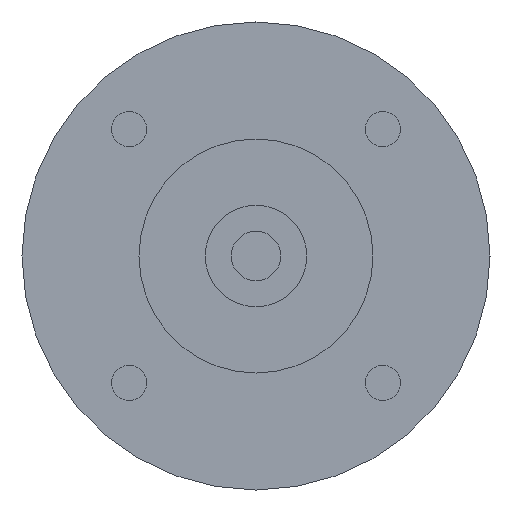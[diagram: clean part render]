
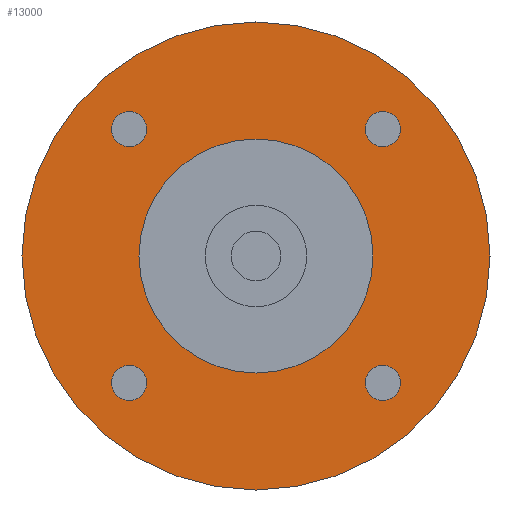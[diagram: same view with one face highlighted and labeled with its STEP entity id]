
A CAD part, left-side view. The second image highlights one B-rep face of the part: STEP entity #13000.
In plain terms, the highlighted planar face has unit normal (-1, 0, 0) as drawn and (0, 0, -1) by its records, which use the part's own axes.
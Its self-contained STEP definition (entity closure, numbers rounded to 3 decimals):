
#8700=CARTESIAN_POINT('',(-30.,0.,-35.));
#8710=VERTEX_POINT('',#8700);
#8910=CARTESIAN_POINT('',(30.,0.,-35.));
#8920=VERTEX_POINT('',#8910);
#8950=CARTESIAN_POINT('',(0.,0.,-35.
));
#8960=DIRECTION('',(0.,0.,1.));
#8970=DIRECTION('',(1.,0.,0.));
#8980=AXIS2_PLACEMENT_3D('',#8950,#8960,#8970);
#8990=CIRCLE('',#8980,30.);
#9000=CARTESIAN_POINT('',(0.,-30.,-35.));
#9010=VERTEX_POINT('',#9000);
#9020=EDGE_CURVE('',#9010,#8920,#8990,.T.);
#9040=EDGE_CURVE('',#8710,#9010,#8990,.T.);
#11970=CARTESIAN_POINT('',(-14.013,16.263,-35.));
#11980=VERTEX_POINT('',#11970);
#12010=CARTESIAN_POINT('',(-16.263,16.263,-35.));
#12020=DIRECTION('',(0.,0.,-1.));
#12030=DIRECTION('',(-1.,0.,0.));
#12040=AXIS2_PLACEMENT_3D('',#12010,#12020,#12030);
#12050=CIRCLE('',#12040,2.25);
#12060=CARTESIAN_POINT('',(-18.513,16.263,-35.));
#12070=VERTEX_POINT('',#12060);
#12080=EDGE_CURVE('',#12070,#11980,#12050,.T.);
#12200=CARTESIAN_POINT('',(0.,0.,
-35.));
#12210=DIRECTION('',(0.,0.,-1.));
#12220=DIRECTION('',(1.,0.,0.));
#12230=AXIS2_PLACEMENT_3D('',#12200,#12210,#12220);
#12240=PLANE('',#12230);
#12250=CARTESIAN_POINT('',(16.263,16.263,-35.));
#12260=DIRECTION('',(0.,0.,-1.));
#12270=DIRECTION('',(0.,1.,0.));
#12280=AXIS2_PLACEMENT_3D('',#12250,#12260,#12270);
#12290=CIRCLE('',#12280,2.25);
#12300=CARTESIAN_POINT('',(16.263,18.513,-35.));
#12310=VERTEX_POINT('',#12300);
#12320=CARTESIAN_POINT('',(16.263,14.013,-35.));
#12330=VERTEX_POINT('',#12320);
#12340=EDGE_CURVE('',#12310,#12330,#12290,.T.);
#12350=ORIENTED_EDGE('',*,*,#12340,.F.);
#12360=EDGE_CURVE('',#12330,#12310,#12290,.T.);
#12370=ORIENTED_EDGE('',*,*,#12360,.F.);
#12380=EDGE_LOOP('',(#12370,#12350));
#12390=FACE_BOUND('',#12380,.T.);
#12400=ORIENTED_EDGE('',*,*,#12080,.F.);
#12410=EDGE_CURVE('',#11980,#12070,#12050,.T.);
#12420=ORIENTED_EDGE('',*,*,#12410,.F.);
#12430=EDGE_LOOP('',(#12420,#12400));
#12440=FACE_BOUND('',#12430,.T.);
#12450=CARTESIAN_POINT('',(-16.263,-16.263,-35.));
#12460=DIRECTION('',(0.,0.,-1.));
#12470=DIRECTION('',(0.,-1.,0.));
#12480=AXIS2_PLACEMENT_3D('',#12450,#12460,#12470);
#12490=CIRCLE('',#12480,2.25);
#12500=CARTESIAN_POINT('',(-16.263,-18.513,-35.));
#12510=VERTEX_POINT('',#12500);
#12520=CARTESIAN_POINT('',(-16.263,-14.013,-35.));
#12530=VERTEX_POINT('',#12520);
#12540=EDGE_CURVE('',#12510,#12530,#12490,.T.);
#12550=ORIENTED_EDGE('',*,*,#12540,.F.);
#12560=EDGE_CURVE('',#12530,#12510,#12490,.T.);
#12570=ORIENTED_EDGE('',*,*,#12560,.F.);
#12580=EDGE_LOOP('',(#12570,#12550));
#12590=FACE_BOUND('',#12580,.T.);
#12600=CARTESIAN_POINT('',(0.,0.,
-35.));
#12610=DIRECTION('',(0.,0.,1.));
#12620=DIRECTION('',(0.,1.,0.));
#12630=AXIS2_PLACEMENT_3D('',#12600,#12610,#12620);
#12640=CIRCLE('',#12630,15.);
#12650=CARTESIAN_POINT('',(-15.,0.,-35.));
#12660=VERTEX_POINT('',#12650);
#12670=CARTESIAN_POINT('',(15.,0.,-35.));
#12680=VERTEX_POINT('',#12670);
#12690=EDGE_CURVE('',#12660,#12680,#12640,.T.);
#12700=ORIENTED_EDGE('',*,*,#12690,.T.);
#12710=CARTESIAN_POINT('',(0.,15.,-35.));
#12720=VERTEX_POINT('',#12710);
#12730=EDGE_CURVE('',#12720,#12660,#12640,.T.);
#12740=ORIENTED_EDGE('',*,*,#12730,.T.);
#12750=EDGE_CURVE('',#12680,#12720,#12640,.T.);
#12760=ORIENTED_EDGE('',*,*,#12750,.T.);
#12770=EDGE_LOOP('',(#12760,#12740,#12700));
#12780=FACE_BOUND('',#12770,.T.);
#12790=CARTESIAN_POINT('',(16.263,-16.263,-35.));
#12800=DIRECTION('',(0.,0.,-1.));
#12810=DIRECTION('',(1.,0.,0.));
#12820=AXIS2_PLACEMENT_3D('',#12790,#12800,#12810);
#12830=CIRCLE('',#12820,2.25);
#12840=CARTESIAN_POINT('',(18.513,-16.263,-35.));
#12850=VERTEX_POINT('',#12840);
#12860=CARTESIAN_POINT('',(14.013,-16.263,-35.));
#12870=VERTEX_POINT('',#12860);
#12880=EDGE_CURVE('',#12850,#12870,#12830,.T.);
#12890=ORIENTED_EDGE('',*,*,#12880,.F.);
#12900=EDGE_CURVE('',#12870,#12850,#12830,.T.);
#12910=ORIENTED_EDGE('',*,*,#12900,.F.);
#12920=EDGE_LOOP('',(#12910,#12890));
#12930=FACE_BOUND('',#12920,.T.);
#12940=ORIENTED_EDGE('',*,*,#9020,.F.);
#12950=EDGE_CURVE('',#8920,#8710,#8990,.T.);
#12960=ORIENTED_EDGE('',*,*,#12950,.F.);
#12970=ORIENTED_EDGE('',*,*,#9040,.F.);
#12980=EDGE_LOOP('',(#12970,#12960,#12940));
#12990=FACE_OUTER_BOUND('',#12980,.T.);
#13000=ADVANCED_FACE('',(#12390,#12440,#12590,#12780,#12930,#12990),
#12240,.T.);
